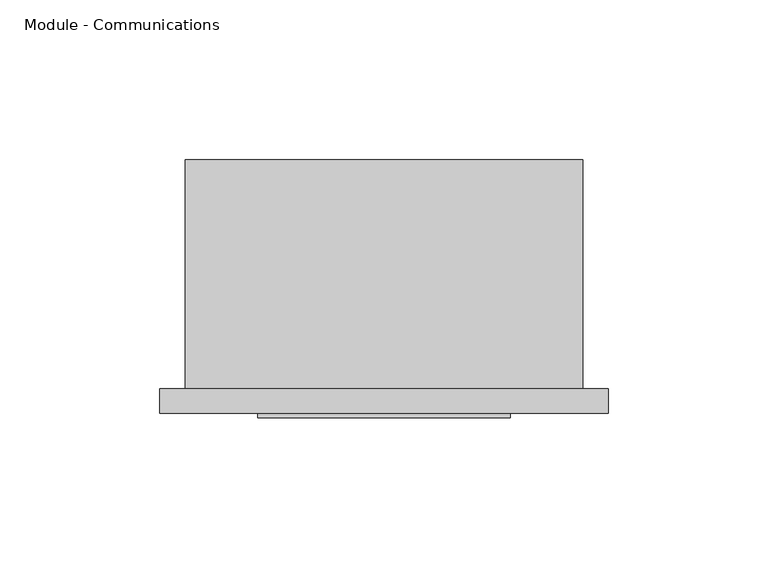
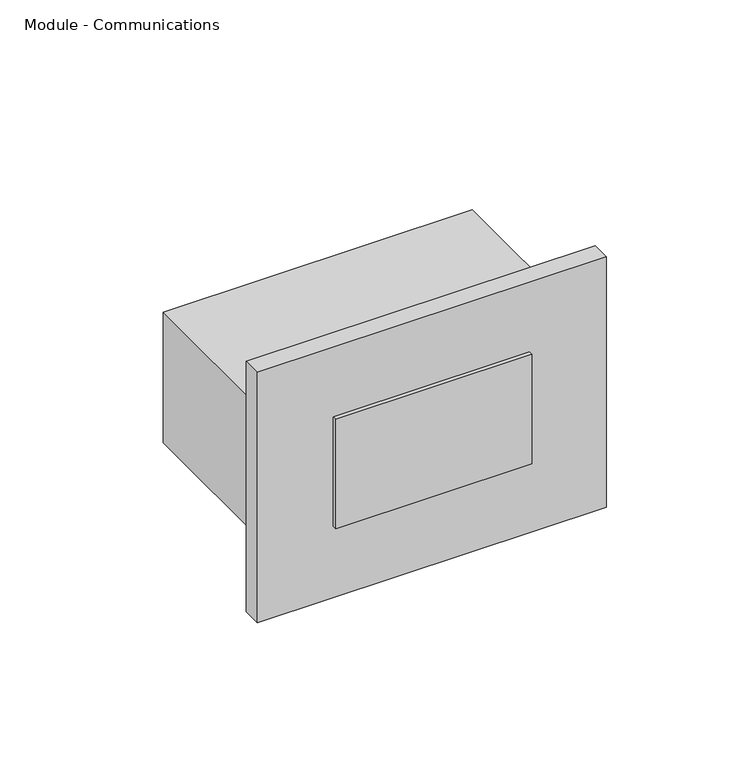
"""IFC4 building model written with IfcOpenShell, lengths in millimetres: proxy geometry, Electrical-Teknion-ECMFH-Module_Communication-R2021 : Module - Communications."""

from ifc_helpers import new_model, si_unit, frame, origin, place, context, project, spatial, polyline, outline, extrude, source, transform, mapped, element, save


def module_communications_99d5fc04(model_context):
    return source(origin(), model_context, "Body", "SweptSolid", [
        extrude(outline(polyline([(22.7020438, -5.8928), (101.7468438, -5.8928), (101.7468438, -9.0678), (22.7020438, -9.0678), (22.7020438, -5.8928)])), frame((0.0, 0.0, 814.9336), z_axis=(0.0, 0.0, 1.0), x_axis=(1.0, 0.0, 0.0)), (0.0, 0.0, 1.0), 46.5328),
        extrude(outline(polyline([(-7.9502, 0.0), (132.4102, 0.0), (132.4102, -7.6580661), (-7.9502, -7.6580661), (-7.9502, 0.0)])), frame((0.0, 0.0, 784.9108), z_axis=(0.0, 0.0, 1.0), x_axis=(1.0, 0.0, 0.0)), (0.0, 0.0, 1.0), 106.5784),
        extrude(outline(polyline([(124.46, 0.0), (0.0, 0.0), (0.0, 71.7296), (124.46, 71.7296), (124.46, 0.0)])), frame((0.0, 0.0, 810.4251), z_axis=(0.0, 0.0, 1.0), x_axis=(1.0, 0.0, 0.0)), (0.0, 0.0, 1.0), 55.5625),
    ])


if __name__ == "__main__":
    model = new_model("IFC4")
    model_context = context("Model", 3, world=origin())
    ifc_project = project(units=[si_unit("LENGTHUNIT", "METRE", prefix="MILLI")], contexts=[model_context])
    site = spatial("IfcSite", under=ifc_project)
    building = spatial("IfcBuilding", under=site)
    placement = place(None, origin())
    module_communications_shape = module_communications_99d5fc04(model_context)
    element("IfcBuildingElementProxy", 1, Name="Electrical-Teknion-ECMFH-Module_Communication-R2021 : Module - Communications", ObjectType="Electrical-Teknion-ECMFH-Module_Communication-R2021 : Module - Communications", at=placement, inside=building, context=model_context, shape_type="MappedRepresentation", body=[
        mapped(module_communications_shape, transform((0.0, 0.0, 0.0), x_axis=(1.0, 0.0, 0.0), y_axis=(0.0, 1.0, 0.0), z_axis=(0.0, 0.0, 1.0))),
    ])
    save(model, "model.ifc")
